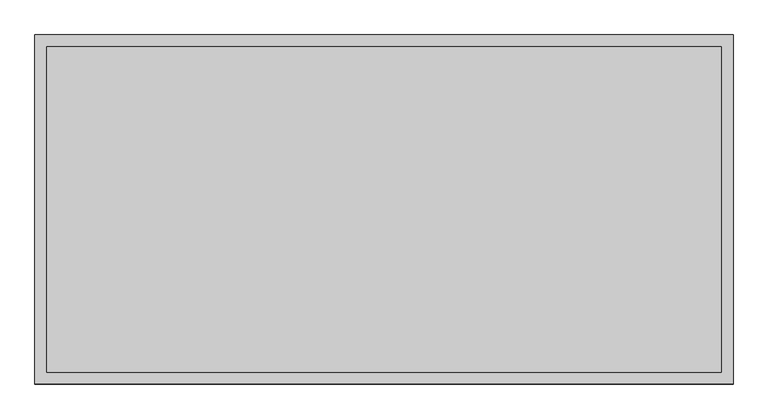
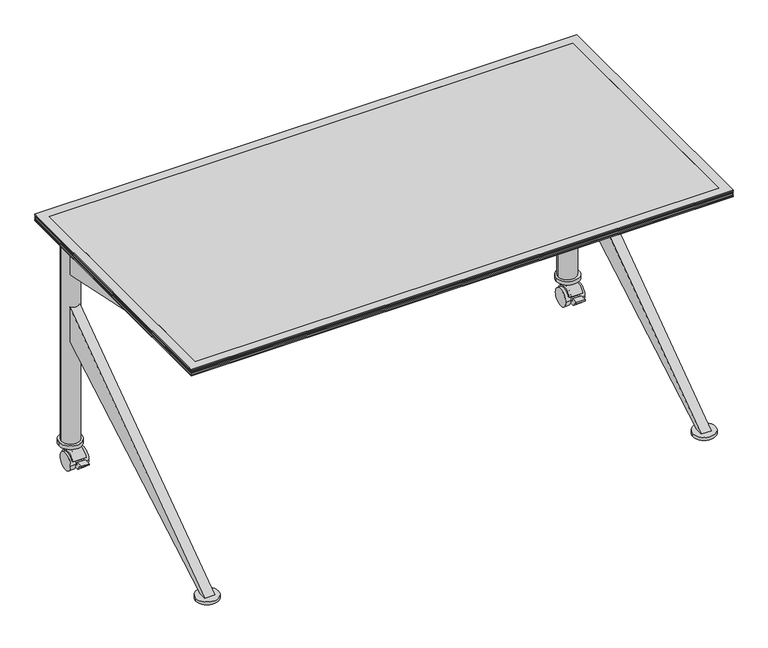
"""IFC4 building model written with IfcOpenShell, lengths in millimetres: furniture geometry, Coalesse_AM_Table_Conference_Ballet_Rectangular_KBase : Non Folding - 60L x 30W."""

from ifc_helpers import new_model, si_unit, point, frame, frame_2d, origin, origin_with_axes, place, context, project, spatial, polyline, circle_curve, trimmed, segment, composite_curve, outline, extrude, faceted_brep, source, transform, mapped, element, save


def furniture_fa86c628(model_context):
    return source(origin(), model_context, "Body", "SolidModel", [
        extrude(outline(composite_curve([segment(trimmed(circle_curve(frame_2d((-699.4092495, -349.25)), 25.4), [point((-724.8092495, -349.25))], [point((-674.0092495, -349.25))], False, "CARTESIAN"), True, "CONTINUOUS"), segment(trimmed(circle_curve(frame_2d((-699.4092495, -349.25)), 25.4), [point((-674.0092495, -349.25))], [point((-724.8092495, -349.25))], False, "CARTESIAN"), True, "CONTINUOUS")], self_intersect=False)), origin_with_axes(), (0.0, 0.0, 1.0), 4.2936144),
        extrude(outline(composite_curve([segment(trimmed(circle_curve(frame_2d((698.6624629, -349.25)), 25.4), [point((673.2624629, -349.25))], [point((724.0624629, -349.25))], False, "CARTESIAN"), True, "CONTINUOUS"), segment(trimmed(circle_curve(frame_2d((698.6624629, -349.25)), 25.4), [point((724.0624629, -349.25))], [point((673.2624629, -349.25))], False, "CARTESIAN"), True, "CONTINUOUS")], self_intersect=False)), origin_with_axes(), (0.0, 0.0, 1.0), 4.2936144),
        extrude(outline(composite_curve([segment(polyline([(325.5604217, 14.7931869), (322.6491351, 16.4051117)]), True, "CONTINUOUS"), segment(trimmed(circle_curve(frame_2d((299.2336856, 24.9907393)), 24.9398531), [point((322.6491351, 16.4051117))], [point((276.7459564, 35.7749086))], True, "CARTESIAN"), True, "CONTINUOUS"), segment(polyline([(276.7459564, 35.7749086), (273.3203751, 36.8601197)]), True, "CONTINUOUS"), segment(trimmed(circle_curve(frame_2d((298.5646326, 26.7032164)), 27.2109394), [point((273.3203751, 36.8601197))], [point((310.1847122, 51.3082762))], False, "CARTESIAN"), True, "CONTINUOUS"), segment(trimmed(circle_curve(frame_2d((300.1211664, 25.8930561)), 27.3351124), [point((310.1847122, 51.3082762))], [point((325.5604217, 35.8956886))], False, "CARTESIAN"), True, "CONTINUOUS"), segment(trimmed(circle_curve(frame_2d((298.7258895, 25.3444377)), 28.8343721), [point((325.5604217, 35.8956886))], [point((325.5604217, 14.7931869))], False, "CARTESIAN"), True, "CONTINUOUS")], self_intersect=False)), frame((678.6279182, 0.0, 0.0), z_axis=(1.0, 0.0, 0.0), x_axis=(0.0, 1.0, 0.0)), (0.0, 0.0, 1.0), 37.985857),
        extrude(outline(composite_curve([segment(trimmed(circle_curve(frame_2d((299.2336856, 24.9907393)), 24.9398531), [point((274.2938325, 24.9907393))], [point((324.1735388, 24.9907393))], False, "CARTESIAN"), True, "CONTINUOUS"), segment(trimmed(circle_curve(frame_2d((299.2336856, 24.9907393)), 24.9398531), [point((324.1735388, 24.9907393))], [point((274.2938325, 24.9907393))], False, "CARTESIAN"), True, "CONTINUOUS")], self_intersect=False)), frame((669.4801992, 0.0, 0.0), z_axis=(1.0, 0.0, 0.0), x_axis=(0.0, 1.0, 0.0)), (0.0, 0.0, 1.0), 14.732),
        extrude(outline(composite_curve([segment(polyline([(310.1847122, 63.5225277), (325.5604217, 63.5225277), (325.5604217, 35.8956886)]), True, "CONTINUOUS"), segment(trimmed(circle_curve(frame_2d((298.7258895, 25.3444377)), 28.8343721), [point((325.5604217, 35.8956886))], [point((325.5604217, 14.7931869))], False, "CARTESIAN"), True, "CONTINUOUS"), segment(polyline([(325.5604217, 14.7931869), (312.095607, 22.2484025), (309.0197341, 16.6930892)]), True, "CONTINUOUS"), segment(trimmed(circle_curve(frame_2d((299.327305, 25.0010719)), 12.7658043), [point((309.0197341, 16.6930892))], [point((289.0624455, 17.4117096))], False, "CARTESIAN"), True, "CONTINUOUS"), segment(polyline([(289.0624455, 17.4117096), (263.293848, 17.4117096), (254.3223524, 31.7691038), (247.5969156, 31.7691038), (247.5969156, 35.1210973), (266.6469156, 35.1210973), (266.6469156, 25.0010719), (285.9362269, 25.0010719), (288.1998286, 32.1463658), (273.3203751, 36.8601197)]), True, "CONTINUOUS"), segment(trimmed(circle_curve(frame_2d((298.5646326, 26.7032164)), 27.2109394), [point((273.3203751, 36.8601197))], [point((310.1847122, 51.3082762))], False, "CARTESIAN"), True, "CONTINUOUS"), segment(polyline([(310.1847122, 51.3082762), (310.1847122, 63.5225277)]), True, "CONTINUOUS")], self_intersect=False)), frame((684.2121992, 0.0, 0.0), z_axis=(1.0, 0.0, 0.0), x_axis=(0.0, 1.0, 0.0)), (0.0, 0.0, 1.0), 24.5934543),
        extrude(outline(composite_curve([segment(trimmed(circle_curve(frame_2d((299.2336856, 24.9907393)), 24.9398531), [point((274.2938325, 24.9907393))], [point((324.1735388, 24.9907393))], False, "CARTESIAN"), True, "CONTINUOUS"), segment(trimmed(circle_curve(frame_2d((299.2336856, 24.9907393)), 24.9398531), [point((324.1735388, 24.9907393))], [point((274.2938325, 24.9907393))], False, "CARTESIAN"), True, "CONTINUOUS")], self_intersect=False)), frame((708.8056535, 0.0, 0.0), z_axis=(1.0, 0.0, 0.0), x_axis=(0.0, 1.0, 0.0)), (0.0, 0.0, 1.0), 14.732),
        extrude(outline(composite_curve([segment(trimmed(circle_curve(frame_2d((699.3954026, 316.7212308)), 31.75), [point((731.1454026, 316.7212308))], [point((667.6454026, 316.7212308))], False, "CARTESIAN"), True, "CONTINUOUS"), segment(trimmed(circle_curve(frame_2d((699.3954026, 316.7212308)), 31.75), [point((667.6454026, 316.7212308))], [point((731.1454026, 316.7212308))], False, "CARTESIAN"), True, "CONTINUOUS")], self_intersect=False)), frame((0.0, 0.0, 62.0397209), z_axis=(0.0, 0.0, 1.0), x_axis=(1.0, 0.0, 0.0)), (0.0, 0.0, 1.0), 10.7840801),
        extrude(outline(composite_curve([segment(polyline([(325.5604217, 14.7931869), (322.6491351, 16.4051117)]), True, "CONTINUOUS"), segment(trimmed(circle_curve(frame_2d((299.2336856, 24.9907393)), 24.9398531), [point((322.6491351, 16.4051117))], [point((276.7459564, 35.7749086))], True, "CARTESIAN"), True, "CONTINUOUS"), segment(polyline([(276.7459564, 35.7749086), (273.3203751, 36.8601197)]), True, "CONTINUOUS"), segment(trimmed(circle_curve(frame_2d((298.5646326, 26.7032164)), 27.2109394), [point((273.3203751, 36.8601197))], [point((310.1847122, 51.3082762))], False, "CARTESIAN"), True, "CONTINUOUS"), segment(trimmed(circle_curve(frame_2d((300.1211664, 25.8930561)), 27.3351124), [point((310.1847122, 51.3082762))], [point((325.5604217, 35.8956886))], False, "CARTESIAN"), True, "CONTINUOUS"), segment(trimmed(circle_curve(frame_2d((298.7258895, 25.3444377)), 28.8343721), [point((325.5604217, 35.8956886))], [point((325.5604217, 14.7931869))], False, "CARTESIAN"), True, "CONTINUOUS")], self_intersect=False)), frame((-718.0010267, 0.0, 0.0), z_axis=(1.0, 0.0, 0.0), x_axis=(0.0, 1.0, 0.0)), (0.0, 0.0, 1.0), 37.7563315),
        extrude(outline(composite_curve([segment(trimmed(circle_curve(frame_2d((299.2336856, 24.9907393)), 24.9398531), [point((274.2938325, 24.9907393))], [point((324.1735388, 24.9907393))], False, "CARTESIAN"), True, "CONTINUOUS"), segment(trimmed(circle_curve(frame_2d((299.2336856, 24.9907393)), 24.9398531), [point((324.1735388, 24.9907393))], [point((274.2938325, 24.9907393))], False, "CARTESIAN"), True, "CONTINUOUS")], self_intersect=False)), frame((-686.3822707, 0.0, 0.0), z_axis=(1.0, 0.0, 0.0), x_axis=(0.0, 1.0, 0.0)), (0.0, 0.0, 1.0), 14.732),
        extrude(outline(composite_curve([segment(polyline([(310.1847122, 63.5225277), (325.5604217, 63.5225277), (325.5604217, 35.8956886)]), True, "CONTINUOUS"), segment(trimmed(circle_curve(frame_2d((298.7258895, 25.3444377)), 28.8343721), [point((325.5604217, 35.8956886))], [point((325.5604217, 14.7931869))], False, "CARTESIAN"), True, "CONTINUOUS"), segment(polyline([(325.5604217, 14.7931869), (312.095607, 22.2484025), (309.0197341, 16.6930892)]), True, "CONTINUOUS"), segment(trimmed(circle_curve(frame_2d((299.327305, 25.0010719)), 12.7658043), [point((309.0197341, 16.6930892))], [point((289.0624455, 17.4117096))], False, "CARTESIAN"), True, "CONTINUOUS"), segment(polyline([(289.0624455, 17.4117096), (263.293848, 17.4117096), (254.3223524, 31.7691038), (247.5969156, 31.7691038), (247.5969156, 35.1210973), (266.6469156, 35.1210973), (266.6469156, 25.0010719), (285.9362269, 25.0010719), (288.1998286, 32.1463658), (273.3203751, 36.8601197)]), True, "CONTINUOUS"), segment(trimmed(circle_curve(frame_2d((298.5646326, 26.7032164)), 27.2109394), [point((273.3203751, 36.8601197))], [point((310.1847122, 51.3082762))], False, "CARTESIAN"), True, "CONTINUOUS"), segment(polyline([(310.1847122, 51.3082762), (310.1847122, 63.5225277)]), True, "CONTINUOUS")], self_intersect=False)), frame((-708.8056535, 0.0, 0.0), z_axis=(1.0, 0.0, 0.0), x_axis=(0.0, 1.0, 0.0)), (0.0, 0.0, 1.0), 22.4233828),
        extrude(outline(composite_curve([segment(trimmed(circle_curve(frame_2d((299.2336856, 24.9907393)), 24.9398531), [point((274.2938325, 24.9907393))], [point((324.1735388, 24.9907393))], False, "CARTESIAN"), True, "CONTINUOUS"), segment(trimmed(circle_curve(frame_2d((299.2336856, 24.9907393)), 24.9398531), [point((324.1735388, 24.9907393))], [point((274.2938325, 24.9907393))], False, "CARTESIAN"), True, "CONTINUOUS")], self_intersect=False)), frame((-723.5376535, 0.0, 0.0), z_axis=(1.0, 0.0, 0.0), x_axis=(0.0, 1.0, 0.0)), (0.0, 0.0, 1.0), 14.732),
        extrude(outline(composite_curve([segment(trimmed(circle_curve(frame_2d((-699.3954026, 316.7212308)), 31.75), [point((-731.1454026, 316.7212308))], [point((-667.6454026, 316.7212308))], False, "CARTESIAN"), True, "CONTINUOUS"), segment(trimmed(circle_curve(frame_2d((-699.3954026, 316.7212308)), 31.75), [point((-667.6454026, 316.7212308))], [point((-731.1454026, 316.7212308))], False, "CARTESIAN"), True, "CONTINUOUS")], self_intersect=False)), frame((0.0, 0.0, 62.0397209), z_axis=(0.0, 0.0, 1.0), x_axis=(1.0, 0.0, 0.0)), (0.0, 0.0, 1.0), 10.7840801),
        extrude(outline(composite_curve([segment(trimmed(circle_curve(frame_2d((-698.5003633, 317.5)), 25.4), [point((-723.9003633, 317.5))], [point((-673.1003633, 317.5))], False, "CARTESIAN"), True, "CONTINUOUS"), segment(trimmed(circle_curve(frame_2d((-698.5003633, 317.5)), 25.4), [point((-673.1003633, 317.5))], [point((-723.9003633, 317.5))], False, "CARTESIAN"), True, "CONTINUOUS")], self_intersect=False)), frame((0.0, 0.0, 72.823801), z_axis=(0.0, 0.0, 1.0), x_axis=(1.0, 0.0, 0.0)), (0.0, 0.0, 1.0), 625.6762232),
        extrude(outline(composite_curve([segment(trimmed(circle_curve(frame_2d((698.5003633, 317.5)), 25.4), [point((673.1003633, 317.5))], [point((723.9003633, 317.5))], False, "CARTESIAN"), True, "CONTINUOUS"), segment(trimmed(circle_curve(frame_2d((698.5003633, 317.5)), 25.4), [point((723.9003633, 317.5))], [point((673.1003633, 317.5))], False, "CARTESIAN"), True, "CONTINUOUS")], self_intersect=False)), frame((0.0, 0.0, 72.823801), z_axis=(0.0, 0.0, 1.0), x_axis=(1.0, 0.0, 0.0)), (0.0, 0.0, 1.0), 625.6762232),
        extrude(outline(polyline([(296.4656271, 577.7388634), (-269.874901, 698.5000242), (-238.124901, 698.5000242), (296.4656271, 641.3500242), (296.4656271, 577.7388634)])), frame((-712.8007845, 0.0, 0.0), z_axis=(1.0, 0.0, 0.0), x_axis=(0.0, 1.0, 0.0)), (0.0, 0.0, 1.0), 28.5877899),
        extrude(outline(polyline([(296.4656271, 381.0), (-338.1375951, 12.7), (-360.3624013, 12.7), (296.4656271, 482.7111245), (296.4656271, 381.0)])), frame((-712.8007845, 0.0, 0.0), z_axis=(1.0, 0.0, 0.0), x_axis=(0.0, 1.0, 0.0)), (0.0, 0.0, 1.0), 28.5877899),
        extrude(outline(polyline([(296.4656271, 577.7388634), (-269.874901, 698.5000242), (-238.124901, 698.5000242), (296.4656271, 641.3500242), (296.4656271, 577.7388634)])), frame((684.2121992, 0.0, 0.0), z_axis=(1.0, 0.0, 0.0), x_axis=(0.0, 1.0, 0.0)), (0.0, 0.0, 1.0), 28.575),
        extrude(outline(polyline([(296.4656271, 381.0), (-338.1375951, 12.7), (-360.3624013, 12.7), (296.4656271, 482.7111245), (296.4656271, 381.0)])), frame((684.2121992, 0.0, 0.0), z_axis=(1.0, 0.0, 0.0), x_axis=(0.0, 1.0, 0.0)), (0.0, 0.0, 1.0), 28.575),
        extrude(outline(composite_curve([segment(trimmed(circle_curve(frame_2d((-699.4092495, -349.25)), 31.75), [point((-731.1592495, -349.25))], [point((-667.6592495, -349.25))], False, "CARTESIAN"), True, "CONTINUOUS"), segment(trimmed(circle_curve(frame_2d((-699.4092495, -349.25)), 31.75), [point((-667.6592495, -349.25))], [point((-731.1592495, -349.25))], False, "CARTESIAN"), True, "CONTINUOUS")], self_intersect=False)), frame((0.0, 0.0, 4.2936144), z_axis=(0.0, 0.0, 1.0), x_axis=(1.0, 0.0, 0.0)), (0.0, 0.0, 1.0), 8.4063856),
        extrude(outline(composite_curve([segment(trimmed(circle_curve(frame_2d((698.6624629, -349.25)), 31.75), [point((666.9124629, -349.25))], [point((730.4124629, -349.25))], False, "CARTESIAN"), True, "CONTINUOUS"), segment(trimmed(circle_curve(frame_2d((698.6624629, -349.25)), 31.75), [point((730.4124629, -349.25))], [point((666.9124629, -349.25))], False, "CARTESIAN"), True, "CONTINUOUS")], self_intersect=False)), frame((0.0, 0.0, 4.2936144), z_axis=(0.0, 0.0, 1.0), x_axis=(1.0, 0.0, 0.0)), (0.0, 0.0, 1.0), 8.4063856),
        faceted_brep([(-762.0003633, 381.0, 704.85), (-736.6003876, 355.6000242, 698.5000242), (-736.6003876, -355.5999516, 698.5000242), (-762.0003633, -380.9999273, 704.85), (-762.0003633, 381.0, 708.0250242), (-762.0003633, -380.9999273, 708.0250242), (-758.8253755, 377.8250121, 709.6125), (-758.8253755, -377.8249394, 709.6125), (-762.0003633, 381.0, 711.1999758), (-762.0003633, -380.9999273, 711.1999758), (-758.8253755, 377.8250121, 712.7875242), (-758.8253755, -377.8249394, 712.7875242), (-762.0003633, 381.0, 714.375), (-762.0003633, -380.9999273, 714.375), (-758.8253755, 377.8250121, 715.9624758), (-758.8253755, -377.8249394, 715.9624758), (-762.0003633, 381.0, 717.5500242), (-762.0003633, -380.9999273, 717.5500242), (-758.8253755, 377.8250121, 719.1375), (-758.8253755, -377.8249394, 719.1375), (-762.0003633, 381.0, 720.7249758), (-762.0003633, -380.9999273, 720.7249758), (-762.0003633, 381.0, 723.9), (-762.0003633, -380.9999273, 723.9), (-736.6003876, 355.6000242, 723.9), (-736.6003876, -355.5999516, 723.9), (736.5998062, -355.5999516, 698.5000242), (761.999782, -380.9999273, 704.85), (761.999782, -380.9999273, 708.0250242), (758.8247941, -377.8249394, 709.6125), (761.999782, -380.9999273, 711.1999758), (758.8247941, -377.8249394, 712.7875242), (761.999782, -380.9999273, 714.375), (758.8247941, -377.8249394, 715.9624758), (761.999782, -380.9999273, 717.5500242), (758.8247941, -377.8249394, 719.1375), (761.999782, -380.9999273, 720.7249758), (761.999782, -380.9999273, 723.9), (736.5998062, -355.5999516, 723.9), (736.5998062, 355.6000242, 698.5000242), (761.999782, 381.0, 704.85), (761.999782, 381.0, 708.0250242), (758.8247941, 377.8250121, 709.6125), (761.999782, 381.0, 711.1999758), (758.8247941, 377.8250121, 712.7875242), (761.999782, 381.0, 714.375), (758.8247941, 377.8250121, 715.9624758), (761.999782, 381.0, 717.5500242), (758.8247941, 377.8250121, 719.1375), (761.999782, 381.0, 720.7249758), (761.999782, 381.0, 723.9), (736.5998062, 355.6000242, 723.9)], [[[0, 1, 2, 3]], [[4, 0, 3, 5]], [[6, 4, 5, 7]], [[8, 6, 7, 9]], [[10, 8, 9, 11]], [[12, 10, 11, 13]], [[14, 12, 13, 15]], [[16, 14, 15, 17]], [[18, 16, 17, 19]], [[20, 18, 19, 21]], [[22, 20, 21, 23]], [[1, 24, 25, 2]], [[3, 2, 26, 27]], [[5, 3, 27, 28]], [[7, 5, 28, 29]], [[9, 7, 29, 30]], [[11, 9, 30, 31]], [[13, 11, 31, 32]], [[15, 13, 32, 33]], [[17, 15, 33, 34]], [[19, 17, 34, 35]], [[21, 19, 35, 36]], [[23, 21, 36, 37]], [[2, 25, 38, 26]], [[27, 26, 39, 40]], [[28, 27, 40, 41]], [[29, 28, 41, 42]], [[30, 29, 42, 43]], [[31, 30, 43, 44]], [[32, 31, 44, 45]], [[33, 32, 45, 46]], [[34, 33, 46, 47]], [[35, 34, 47, 48]], [[36, 35, 48, 49]], [[37, 36, 49, 50]], [[26, 38, 51, 39]], [[40, 39, 1, 0]], [[41, 40, 0, 4]], [[42, 41, 4, 6]], [[43, 42, 6, 8]], [[44, 43, 8, 10]], [[45, 44, 10, 12]], [[46, 45, 12, 14]], [[47, 46, 14, 16]], [[48, 47, 16, 18]], [[49, 48, 18, 20]], [[50, 49, 20, 22]], [[23, 37, 50, 22], [24, 51, 38, 25]], [[39, 51, 24, 1]]]),
        extrude(outline(polyline([(736.5998062, 355.6000242), (736.5998062, -355.5999516), (-736.6003876, -355.5999516), (-736.6003876, 355.6000242), (736.5998062, 355.6000242)])), frame((0.0, 0.0, 704.85), z_axis=(0.0, 0.0, 1.0), x_axis=(1.0, 0.0, 0.0)), (0.0, 0.0, 1.0), 19.05),
    ])


if __name__ == "__main__":
    model = new_model("IFC4")
    model_context = context("Model", 3, world=origin())
    ifc_project = project(units=[si_unit("LENGTHUNIT", "METRE", prefix="MILLI")], contexts=[model_context])
    site = spatial("IfcSite", under=ifc_project)
    building = spatial("IfcBuilding", under=site)
    placement = place(None, origin())
    furniture_shape = furniture_fa86c628(model_context)
    element("IfcFurniture", 1, ObjectType="Coalesse_AM_Table_Conference_Ballet_Rectangular_KBase : Non Folding - 60L x 30W", at=placement, inside=building, context=model_context, shape_type="MappedRepresentation", body=[
        mapped(furniture_shape, transform((0.0, 0.0, 0.0), x_axis=(1.0, 0.0, 0.0), y_axis=(0.0, 1.0, 0.0), z_axis=(0.0, 0.0, 1.0))),
    ])
    save(model, "model.ifc")
